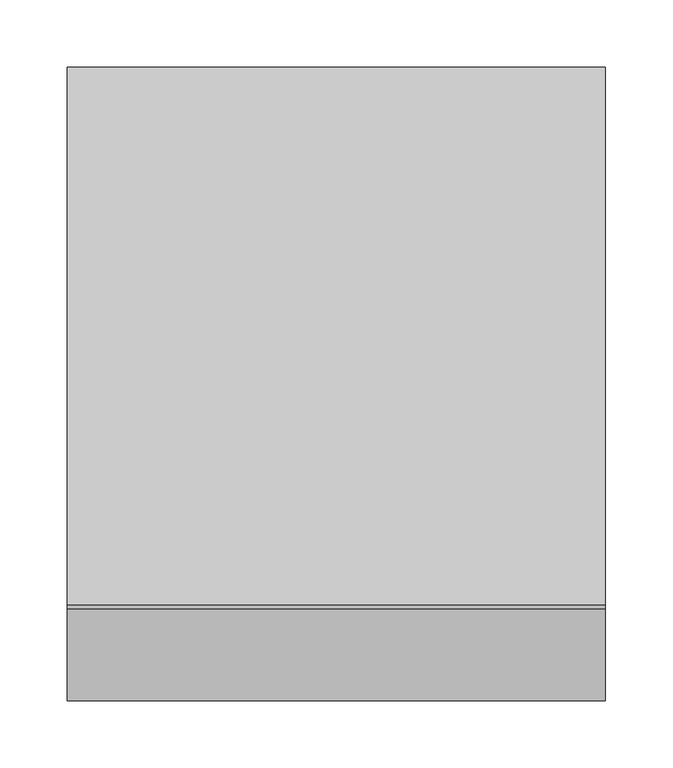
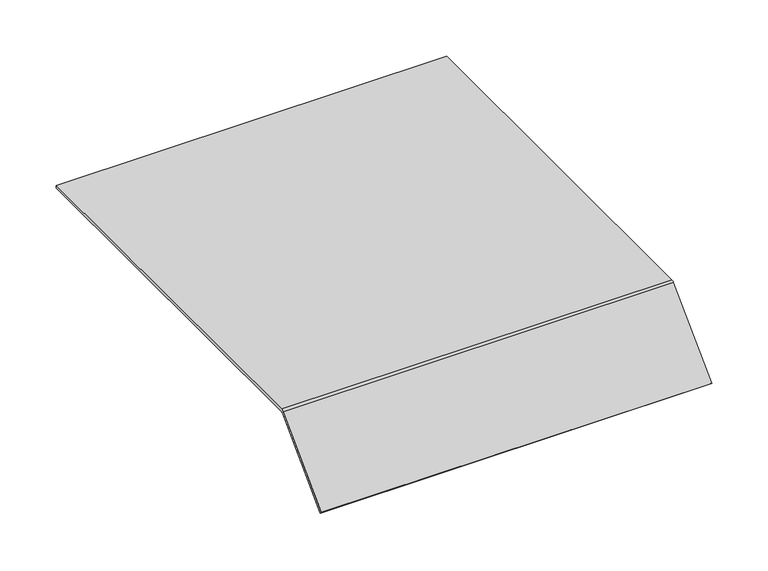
"""IFC4 building model written with IfcOpenShell, lengths in millimetres: proxy geometry, Electrical_Installation_Hager_Blank-Cover-400mm-Single-Sided-Height-70mm : Electrical_Installation_Hager_Blank-Cover-400mm-Single-Sided-Height-70mm."""

import ifcopenshell
import ifcopenshell.guid

model = None  # the IFC model being written
_history = None  # IfcOwnerHistory: only IFC2X3 demands one
_inside = {}  # id of a spatial element -> (the spatial element, [elements in it])
_under = {}  # id of a project, library or spatial element -> (it, [spatial elements below it])
_declared = {}  # id of a project -> (the project, [libraries it declares])
_typed = {}  # id of a type object -> (the type object, [elements of that type])
_made_of = {}  # id of a material, layer set ... -> (it, [elements and type objects made of it])


def new_model(schema):
    """Start an empty IFC model of exactly this schema.

    Asked for "IFC4X3", IfcOpenShell would pick the latest addendum, in which some entities
    have other attributes; the version numbers below select the first issue.
    IFC2X3 requires an IfcOwnerHistory on every rooted entity: one is made here for all.
    """
    global model, _history
    if schema == "IFC4X3":
        model = ifcopenshell.file(schema_version=(4, 3, 0, 0))
    else:
        model = ifcopenshell.file(schema=schema)
    _inside.clear()
    _under.clear()
    _declared.clear()
    _typed.clear()
    _made_of.clear()
    _history = None
    if model.schema == "IFC2X3":
        org = make("IfcOrganization", Name="unknown")
        user = make(
            "IfcPersonAndOrganization",
            ThePerson=make("IfcPerson", FamilyName="unknown"),
            TheOrganization=org,
        )
        app = make(
            "IfcApplication",
            ApplicationDeveloper=org,
            Version="unknown",
            ApplicationFullName="unknown",
            ApplicationIdentifier="unknown",
        )
        _history = make(
            "IfcOwnerHistory",
            OwningUser=user,
            OwningApplication=app,
            ChangeAction="ADDED",
            CreationDate=0,
        )
    return model


def make(cls, **values):
    """One entity of the class cls with the attributes given. An attribute that is None is left unset."""
    return model.create_entity(
        cls, **{name: value for name, value in values.items() if value is not None}
    )


def rooted(cls, **values):
    """An entity with a GlobalId (a new one), such as an element, a storey or a relation."""
    return make(cls, GlobalId=ifcopenshell.guid.new(), OwnerHistory=_history, **values)


def si_unit(unit_type, name, prefix=None):
    """IfcSIUnit, for example si_unit("LENGTHUNIT", "METRE", prefix="MILLI")."""
    return make("IfcSIUnit", UnitType=unit_type, Prefix=prefix, Name=name)


def assignment(units):
    """IfcUnitAssignment: the units of a project."""
    return None if units is None else make("IfcUnitAssignment", Units=units)


def point(xyz):
    """IfcCartesianPoint."""
    return None if xyz is None else make("IfcCartesianPoint", Coordinates=xyz)


def direction(xyz):
    """IfcDirection."""
    return None if xyz is None else make("IfcDirection", DirectionRatios=xyz)


def frame(location, z_axis=None, x_axis=None):
    """IfcAxis2Placement3D, a coordinate frame: its origin and axes. An axis left out is left unset."""
    return make(
        "IfcAxis2Placement3D",
        Location=point(location),
        Axis=direction(z_axis),
        RefDirection=direction(x_axis),
    )


def frame_2d(location, x_axis=None):
    """IfcAxis2Placement2D, a coordinate frame in the plane: its origin and x axis."""
    return make(
        "IfcAxis2Placement2D", Location=point(location), RefDirection=direction(x_axis)
    )


def origin():
    """The frame at (0, 0, 0) with its axes left unset."""
    return frame((0.0, 0.0, 0.0))


def place(relative_to, where):
    """IfcLocalPlacement: puts the frame where relative to a parent placement (None: the world)."""
    return make(
        "IfcLocalPlacement", PlacementRelTo=relative_to, RelativePlacement=where
    )


def context(
    kind, dimensions, precision=None, world=None, true_north=None, identifier=None
):
    """IfcGeometricRepresentationContext, for example the 3D "Model" context."""
    return make(
        "IfcGeometricRepresentationContext",
        ContextIdentifier=identifier,
        ContextType=kind,
        CoordinateSpaceDimension=dimensions,
        Precision=precision,
        WorldCoordinateSystem=world,
        TrueNorth=true_north,
    )


def project(units=None, contexts=None):
    """IfcProject with its units and contexts."""
    return rooted(
        "IfcProject",
        Name="project",
        RepresentationContexts=contexts,
        UnitsInContext=assignment(units),
    )


def spatial(cls, under=None, at=None, **own):
    """A site, building, storey or space (cls), placed at a placement, below another one or the project."""
    s = rooted(cls, ObjectPlacement=at, **own)
    if under is not None:
        _under.setdefault(under.id(), (under, []))[1].append(s)
    return s


def polyline(points):
    """IfcPolyline through the points."""
    return make("IfcPolyline", Points=[point(p) for p in points])


def circle_curve(where, radius):
    """IfcCircle in the frame where."""
    return make("IfcCircle", Position=where, Radius=radius)


def trimmed(basis, trim1, trim2, sense, master):
    """IfcTrimmedCurve: the piece of a basis curve between two trims."""
    return make(
        "IfcTrimmedCurve",
        BasisCurve=basis,
        Trim1=trim1,
        Trim2=trim2,
        SenseAgreement=sense,
        MasterRepresentation=master,
    )


def segment(curve, same_sense, transition):
    """IfcCompositeCurveSegment."""
    return make(
        "IfcCompositeCurveSegment",
        Transition=transition,
        SameSense=same_sense,
        ParentCurve=curve,
    )


def composite_curve(segments, self_intersect=None):
    """IfcCompositeCurve: segments joined end to end."""
    return make("IfcCompositeCurve", Segments=segments, SelfIntersect=self_intersect)


def outline(outer, holes=None, kind="AREA"):
    """IfcArbitraryClosedProfileDef: a profile drawn as a closed curve; with holes, ...WithVoids."""
    if holes is None:
        return make("IfcArbitraryClosedProfileDef", ProfileType=kind, OuterCurve=outer)
    return make(
        "IfcArbitraryProfileDefWithVoids",
        ProfileType=kind,
        OuterCurve=outer,
        InnerCurves=holes,
    )


def extrude(swept, where, along, depth):
    """IfcExtrudedAreaSolid: the profile swept, set in the frame where, extruded along a direction by depth."""
    return make(
        "IfcExtrudedAreaSolid",
        SweptArea=swept,
        Position=where,
        ExtrudedDirection=direction(along),
        Depth=depth,
    )


def shape(context_of_items, identifier, shape_type, items):
    """IfcShapeRepresentation: the items that make up one representation, for example the "Body"."""
    return make(
        "IfcShapeRepresentation",
        ContextOfItems=context_of_items,
        RepresentationIdentifier=identifier,
        RepresentationType=shape_type,
        Items=items,
    )


def source(mapping_origin, context_of_items, identifier, shape_type, items):
    """IfcRepresentationMap: a shape defined once, which mapped items show again and again."""
    return make(
        "IfcRepresentationMap",
        MappingOrigin=mapping_origin,
        MappedRepresentation=shape(context_of_items, identifier, shape_type, items),
    )


def transform(
    local_origin,
    x_axis=None,
    y_axis=None,
    z_axis=None,
    scale=None,
    scale2=None,
    scale3=None,
    uniform=True,
):
    """IfcCartesianTransformationOperator3D, or its non-uniform kind. x_axis, y_axis, z_axis: its Axis1, 2, 3."""
    if uniform:
        return make(
            "IfcCartesianTransformationOperator3D",
            Axis1=direction(x_axis),
            Axis2=direction(y_axis),
            LocalOrigin=point(local_origin),
            Scale=scale,
            Axis3=direction(z_axis),
        )
    return make(
        "IfcCartesianTransformationOperator3DnonUniform",
        Axis1=direction(x_axis),
        Axis2=direction(y_axis),
        LocalOrigin=point(local_origin),
        Scale=scale,
        Axis3=direction(z_axis),
        Scale2=scale2,
        Scale3=scale3,
    )


def mapped(mapping_source, mapping_target):
    """IfcMappedItem: shows the shape of a source again, moved by a transform."""
    return make(
        "IfcMappedItem", MappingSource=mapping_source, MappingTarget=mapping_target
    )


def made_of(thing, what):
    """Note that an element or type object is made of a material, layer set ...; save() writes the relation."""
    if what is not None:
        _made_of.setdefault(what.id(), (what, []))[1].append(thing)
    return thing


def element(
    cls,
    number,
    at=None,
    inside=None,
    cuts=None,
    type_object=None,
    material=None,
    context=None,
    identifier="Body",
    shape_type=None,
    held_by="IfcProductDefinitionShape",
    body=None,
    shapes=None,
    **own,
):
    """One element of the class cls, such as IfcWall. Its Tag is "e" and its number.

    at: its placement. inside: the storey or other place that contains it. cuts: it is an
    opening in that element (IfcRelVoidsElement). A single representation is given by context,
    identifier, shape_type and body (its items); several are given by shapes. held_by: the class
    of the entity that holds the representations. save() writes the other relations.
    """
    e = rooted(cls, Tag="e%d" % number, ObjectPlacement=at, **own)
    if body is not None:
        shapes = [shape(context, identifier, shape_type, body)]
    if shapes is not None:
        e.Representation = make(held_by, Representations=shapes)
    if inside is not None:
        _inside.setdefault(inside.id(), (inside, []))[1].append(e)
    if cuts is not None:
        rooted(
            "IfcRelVoidsElement", RelatingBuildingElement=cuts, RelatedOpeningElement=e
        )
    if type_object is not None:
        _typed.setdefault(type_object.id(), (type_object, []))[1].append(e)
    return made_of(e, material)


def aggregate(whole, parts):
    """IfcRelAggregates: a whole, such as a stair, and the parts it consists of."""
    return rooted("IfcRelAggregates", RelatingObject=whole, RelatedObjects=parts)


def save(model, path):
    """Write the relations noted so far, then the file.

    IfcRelAggregates (storeys below a building ...), IfcRelContainedInSpatialStructure (elements
    in a storey), IfcRelDefinesByType, IfcRelAssociatesMaterial and IfcRelDeclares: one each for
    every whole, place, type object, material and project.
    """
    for whole, parts in _under.values():
        aggregate(whole, parts)
    for where, things in _inside.values():
        rooted(
            "IfcRelContainedInSpatialStructure",
            RelatedElements=things,
            RelatingStructure=where,
        )
    for kind, things in _typed.values():
        rooted("IfcRelDefinesByType", RelatedObjects=things, RelatingType=kind)
    for what, things in _made_of.values():
        rooted("IfcRelAssociatesMaterial", RelatedObjects=things, RelatingMaterial=what)
    for by, libraries in _declared.values():
        rooted("IfcRelDeclares", RelatingContext=by, RelatedDefinitions=libraries)
    model.write(path)


def electrical_fixtures_345be723(model_context):
    return source(origin(), model_context, "Body", "SweptSolid", [
        extrude(outline(composite_curve([segment(polyline([(200.0, 40.5), (200.0, 37.5), (-199.8229541, 37.5)]), True, "CONTINUOUS"), segment(trimmed(circle_curve(frame_2d((-199.8229541, 36.0725733)), 1.4274267), [point((-199.8229541, 37.5))], [point((-200.8322972, 37.0819164))], True, "CARTESIAN"), True, "CONTINUOUS"), segment(polyline([(-200.8322972, 37.0819164), (-268.6627596, -30.7485461), (-270.78408, -28.6272257), (-202.8206472, 39.336207)]), True, "CONTINUOUS"), segment(trimmed(circle_curve(frame_2d((-200.0110025, 36.5265623)), 3.9734377), [point((-202.8206472, 39.336207))], [point((-200.0110025, 40.5))], False, "CARTESIAN"), True, "CONTINUOUS"), segment(polyline([(-200.0110025, 40.5), (200.0, 40.5)]), True, "CONTINUOUS")], self_intersect=False)), frame((0.0, 0.0, 0.0), z_axis=(1.0, 0.0, 0.0), x_axis=(0.0, 1.0, 0.0)), (0.0, 0.0, 1.0), 400.0),
    ])


if __name__ == "__main__":
    model = new_model("IFC4")
    model_context = context("Model", 3, world=origin())
    ifc_project = project(units=[si_unit("LENGTHUNIT", "METRE", prefix="MILLI")], contexts=[model_context])
    site = spatial("IfcSite", under=ifc_project)
    building = spatial("IfcBuilding", under=site)
    placement = place(None, origin())
    electrical_fixtures_shape = electrical_fixtures_345be723(model_context)
    element("IfcBuildingElementProxy", 1, Name="Electrical_Installation_Hager_Blank-Cover-400mm-Single-Sided-Height-70mm : Electrical_Installation_Hager_Blank-Cover-400mm-Single-Sided-Height-70mm", ObjectType="Electrical_Installation_Hager_Blank-Cover-400mm-Single-Sided-Height-70mm : Electrical_Installation_Hager_Blank-Cover-400mm-Single-Sided-Height-70mm", at=placement, inside=building, context=model_context, shape_type="MappedRepresentation", body=[
        mapped(electrical_fixtures_shape, transform((0.0, 0.0, 0.0), x_axis=(1.0, 0.0, 0.0), y_axis=(0.0, 1.0, 0.0), z_axis=(0.0, 0.0, 1.0))),
    ])
    save(model, "model.ifc")
